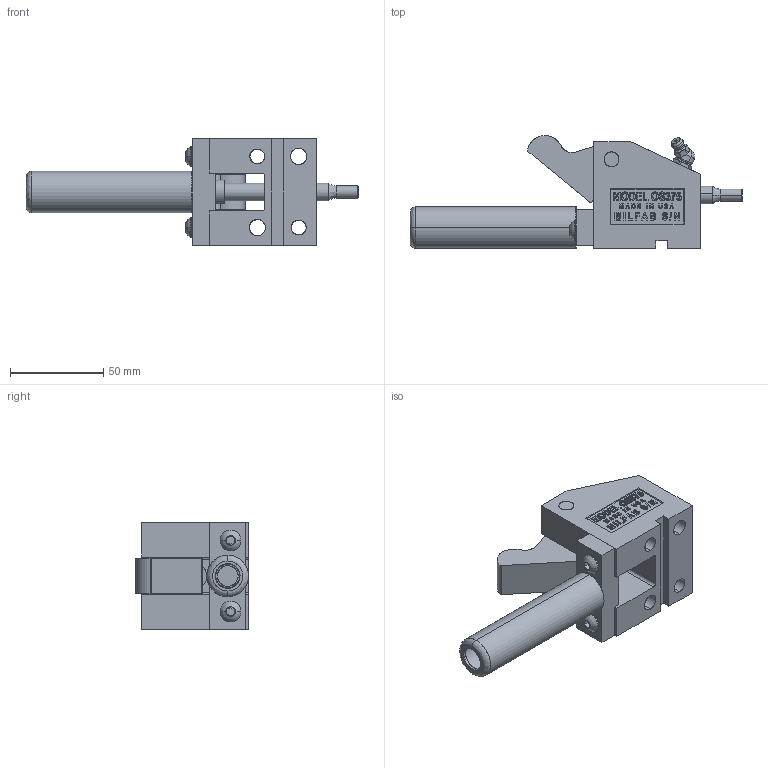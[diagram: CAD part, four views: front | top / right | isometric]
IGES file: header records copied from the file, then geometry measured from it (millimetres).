
Start section: SolidWorks IGES file using analytic representation for surfaces
Global section: file name: Y:\JIM'S INCH CAM UNITS\OS37545\OPEN\OS37545-O.IGS; native system: SolidWorks 2006 by SolidWorks Corporation; preprocessor: SolidWorks 2006 by SolidWorks Corporation; author: Jim; date: 090205.162012; units: inch
Bounding box: 177.8 x 60.44 x 57.15 mm (x, y, z)
Surface area: 55354.6 mm2 (no closed solid volume)
Topology: 0 solids, 0 shells, 584 faces, 7563 edges, 7561 vertices
Faces by surface type: bspline 466, revolution 118
